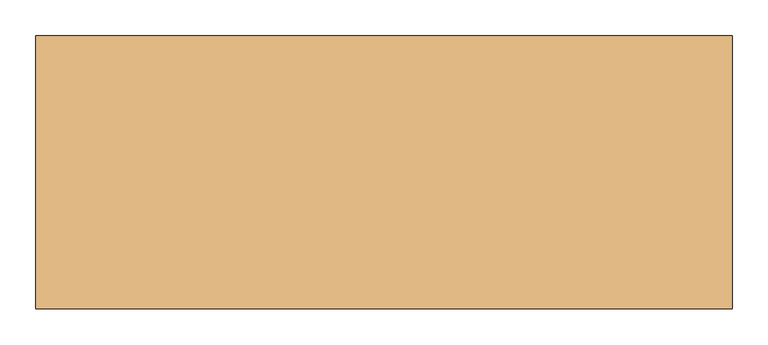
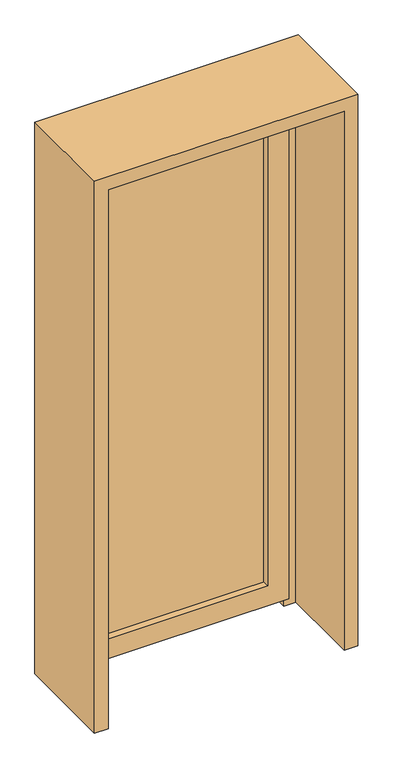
"""IFC4 building model written with IfcOpenShell, lengths in millimetres: door geometry, Внутренняя дверь 1-Навесная - 30970-2002 : ДПВ Г Б Пр 2100-870 ГОСТ 30970-2002."""

import ifcopenshell
import ifcopenshell.guid

model = None  # the IFC model being written
_history = None  # IfcOwnerHistory: only IFC2X3 demands one
_inside = {}  # id of a spatial element -> (the spatial element, [elements in it])
_under = {}  # id of a project, library or spatial element -> (it, [spatial elements below it])
_declared = {}  # id of a project -> (the project, [libraries it declares])
_typed = {}  # id of a type object -> (the type object, [elements of that type])
_made_of = {}  # id of a material, layer set ... -> (it, [elements and type objects made of it])


def new_model(schema):
    """Start an empty IFC model of exactly this schema.

    Asked for "IFC4X3", IfcOpenShell would pick the latest addendum, in which some entities
    have other attributes; the version numbers below select the first issue.
    IFC2X3 requires an IfcOwnerHistory on every rooted entity: one is made here for all.
    """
    global model, _history
    if schema == "IFC4X3":
        model = ifcopenshell.file(schema_version=(4, 3, 0, 0))
    else:
        model = ifcopenshell.file(schema=schema)
    _inside.clear()
    _under.clear()
    _declared.clear()
    _typed.clear()
    _made_of.clear()
    _history = None
    if model.schema == "IFC2X3":
        org = make("IfcOrganization", Name="unknown")
        user = make(
            "IfcPersonAndOrganization",
            ThePerson=make("IfcPerson", FamilyName="unknown"),
            TheOrganization=org,
        )
        app = make(
            "IfcApplication",
            ApplicationDeveloper=org,
            Version="unknown",
            ApplicationFullName="unknown",
            ApplicationIdentifier="unknown",
        )
        _history = make(
            "IfcOwnerHistory",
            OwningUser=user,
            OwningApplication=app,
            ChangeAction="ADDED",
            CreationDate=0,
        )
    return model


def make(cls, **values):
    """One entity of the class cls with the attributes given. An attribute that is None is left unset."""
    return model.create_entity(
        cls, **{name: value for name, value in values.items() if value is not None}
    )


def rooted(cls, **values):
    """An entity with a GlobalId (a new one), such as an element, a storey or a relation."""
    return make(cls, GlobalId=ifcopenshell.guid.new(), OwnerHistory=_history, **values)


def si_unit(unit_type, name, prefix=None):
    """IfcSIUnit, for example si_unit("LENGTHUNIT", "METRE", prefix="MILLI")."""
    return make("IfcSIUnit", UnitType=unit_type, Prefix=prefix, Name=name)


def assignment(units):
    """IfcUnitAssignment: the units of a project."""
    return None if units is None else make("IfcUnitAssignment", Units=units)


def point(xyz):
    """IfcCartesianPoint."""
    return None if xyz is None else make("IfcCartesianPoint", Coordinates=xyz)


def direction(xyz):
    """IfcDirection."""
    return None if xyz is None else make("IfcDirection", DirectionRatios=xyz)


def frame(location, z_axis=None, x_axis=None):
    """IfcAxis2Placement3D, a coordinate frame: its origin and axes. An axis left out is left unset."""
    return make(
        "IfcAxis2Placement3D",
        Location=point(location),
        Axis=direction(z_axis),
        RefDirection=direction(x_axis),
    )


def origin():
    """The frame at (0, 0, 0) with its axes left unset."""
    return frame((0.0, 0.0, 0.0))


def place(relative_to, where):
    """IfcLocalPlacement: puts the frame where relative to a parent placement (None: the world)."""
    return make(
        "IfcLocalPlacement", PlacementRelTo=relative_to, RelativePlacement=where
    )


def context(
    kind, dimensions, precision=None, world=None, true_north=None, identifier=None
):
    """IfcGeometricRepresentationContext, for example the 3D "Model" context."""
    return make(
        "IfcGeometricRepresentationContext",
        ContextIdentifier=identifier,
        ContextType=kind,
        CoordinateSpaceDimension=dimensions,
        Precision=precision,
        WorldCoordinateSystem=world,
        TrueNorth=true_north,
    )


def project(units=None, contexts=None):
    """IfcProject with its units and contexts."""
    return rooted(
        "IfcProject",
        Name="project",
        RepresentationContexts=contexts,
        UnitsInContext=assignment(units),
    )


def spatial(cls, under=None, at=None, **own):
    """A site, building, storey or space (cls), placed at a placement, below another one or the project."""
    s = rooted(cls, ObjectPlacement=at, **own)
    if under is not None:
        _under.setdefault(under.id(), (under, []))[1].append(s)
    return s


def polyline(points):
    """IfcPolyline through the points."""
    return make("IfcPolyline", Points=[point(p) for p in points])


def outline(outer, holes=None, kind="AREA"):
    """IfcArbitraryClosedProfileDef: a profile drawn as a closed curve; with holes, ...WithVoids."""
    if holes is None:
        return make("IfcArbitraryClosedProfileDef", ProfileType=kind, OuterCurve=outer)
    return make(
        "IfcArbitraryProfileDefWithVoids",
        ProfileType=kind,
        OuterCurve=outer,
        InnerCurves=holes,
    )


def extrude(swept, where, along, depth):
    """IfcExtrudedAreaSolid: the profile swept, set in the frame where, extruded along a direction by depth."""
    return make(
        "IfcExtrudedAreaSolid",
        SweptArea=swept,
        Position=where,
        ExtrudedDirection=direction(along),
        Depth=depth,
    )


def faces_of(points, faces, orient=None, outer=None):
    """IfcFace entities. A face is a list of loops; a loop is a list of indices into points, from 0.

    orient and outer hold one flag for each loop. By default every Orientation is true, the
    first loop of a face is its IfcFaceOuterBound and the others are IfcFaceBound.
    """
    made = []
    for i, loops in enumerate(faces):
        bounds = []
        for j, loop in enumerate(loops):
            is_outer = j == 0 if outer is None else outer[i][j]
            bounds.append(
                make(
                    "IfcFaceOuterBound" if is_outer else "IfcFaceBound",
                    Bound=make("IfcPolyLoop", Polygon=[points[k] for k in loop]),
                    Orientation=True if orient is None else orient[i][j],
                )
            )
        made.append(make("IfcFace", Bounds=bounds))
    return made


def faceted_brep(points, faces, orient=None, outer=None, voids=None):
    """IfcFacetedBrep: a solid bounded by flat faces; with voids (closed shells), ...WithVoids."""
    shared = [point(p) for p in points]
    hull = make("IfcClosedShell", CfsFaces=faces_of(shared, faces, orient, outer))
    if voids is None:
        return make("IfcFacetedBrep", Outer=hull)
    return make(
        "IfcFacetedBrepWithVoids",
        Outer=hull,
        Voids=[
            make(cls, CfsFaces=faces_of(shared, fs, o, b)) for cls, fs, o, b in voids
        ],
    )


def shape(context_of_items, identifier, shape_type, items):
    """IfcShapeRepresentation: the items that make up one representation, for example the "Body"."""
    return make(
        "IfcShapeRepresentation",
        ContextOfItems=context_of_items,
        RepresentationIdentifier=identifier,
        RepresentationType=shape_type,
        Items=items,
    )


def source(mapping_origin, context_of_items, identifier, shape_type, items):
    """IfcRepresentationMap: a shape defined once, which mapped items show again and again."""
    return make(
        "IfcRepresentationMap",
        MappingOrigin=mapping_origin,
        MappedRepresentation=shape(context_of_items, identifier, shape_type, items),
    )


def transform(
    local_origin,
    x_axis=None,
    y_axis=None,
    z_axis=None,
    scale=None,
    scale2=None,
    scale3=None,
    uniform=True,
):
    """IfcCartesianTransformationOperator3D, or its non-uniform kind. x_axis, y_axis, z_axis: its Axis1, 2, 3."""
    if uniform:
        return make(
            "IfcCartesianTransformationOperator3D",
            Axis1=direction(x_axis),
            Axis2=direction(y_axis),
            LocalOrigin=point(local_origin),
            Scale=scale,
            Axis3=direction(z_axis),
        )
    return make(
        "IfcCartesianTransformationOperator3DnonUniform",
        Axis1=direction(x_axis),
        Axis2=direction(y_axis),
        LocalOrigin=point(local_origin),
        Scale=scale,
        Axis3=direction(z_axis),
        Scale2=scale2,
        Scale3=scale3,
    )


def mapped(mapping_source, mapping_target):
    """IfcMappedItem: shows the shape of a source again, moved by a transform."""
    return make(
        "IfcMappedItem", MappingSource=mapping_source, MappingTarget=mapping_target
    )


def made_of(thing, what):
    """Note that an element or type object is made of a material, layer set ...; save() writes the relation."""
    if what is not None:
        _made_of.setdefault(what.id(), (what, []))[1].append(thing)
    return thing


def element(
    cls,
    number,
    at=None,
    inside=None,
    cuts=None,
    type_object=None,
    material=None,
    context=None,
    identifier="Body",
    shape_type=None,
    held_by="IfcProductDefinitionShape",
    body=None,
    shapes=None,
    **own,
):
    """One element of the class cls, such as IfcWall. Its Tag is "e" and its number.

    at: its placement. inside: the storey or other place that contains it. cuts: it is an
    opening in that element (IfcRelVoidsElement). A single representation is given by context,
    identifier, shape_type and body (its items); several are given by shapes. held_by: the class
    of the entity that holds the representations. save() writes the other relations.
    """
    e = rooted(cls, Tag="e%d" % number, ObjectPlacement=at, **own)
    if body is not None:
        shapes = [shape(context, identifier, shape_type, body)]
    if shapes is not None:
        e.Representation = make(held_by, Representations=shapes)
    if inside is not None:
        _inside.setdefault(inside.id(), (inside, []))[1].append(e)
    if cuts is not None:
        rooted(
            "IfcRelVoidsElement", RelatingBuildingElement=cuts, RelatedOpeningElement=e
        )
    if type_object is not None:
        _typed.setdefault(type_object.id(), (type_object, []))[1].append(e)
    return made_of(e, material)


def aggregate(whole, parts):
    """IfcRelAggregates: a whole, such as a stair, and the parts it consists of."""
    return rooted("IfcRelAggregates", RelatingObject=whole, RelatedObjects=parts)


def save(model, path):
    """Write the relations noted so far, then the file.

    IfcRelAggregates (storeys below a building ...), IfcRelContainedInSpatialStructure (elements
    in a storey), IfcRelDefinesByType, IfcRelAssociatesMaterial and IfcRelDeclares: one each for
    every whole, place, type object, material and project.
    """
    for whole, parts in _under.values():
        aggregate(whole, parts)
    for where, things in _inside.values():
        rooted(
            "IfcRelContainedInSpatialStructure",
            RelatedElements=things,
            RelatingStructure=where,
        )
    for kind, things in _typed.values():
        rooted("IfcRelDefinesByType", RelatedObjects=things, RelatingType=kind)
    for what, things in _made_of.values():
        rooted("IfcRelAssociatesMaterial", RelatedObjects=things, RelatingMaterial=what)
    for by, libraries in _declared.values():
        rooted("IfcRelDeclares", RelatingContext=by, RelatedDefinitions=libraries)
    model.write(path)


def door_987aae31(model_context):
    return source(origin(), model_context, "Body", "SolidModel", [
        extrude(outline(polyline([(-338.0, 163.0), (338.0, 163.0), (338.0, 139.0), (-338.0, 139.0), (-338.0, 163.0)])), frame((0.0, 0.0, 97.0), z_axis=(0.0, 0.0, 1.0), x_axis=(1.0, 0.0, 0.0)), (0.0, 0.0, 1.0), 1906.0),
        faceted_brep([(-323.0, 139.0, 1988.0), (-323.0, 113.0, 1988.0), (-323.0, 113.0, 112.0), (-323.0, 139.0, 112.0), (-338.0, 163.0, 2003.0), (-338.0, 139.0, 2003.0), (-338.0, 139.0, 97.0), (-338.0, 163.0, 97.0), (-323.0, 183.0, 1988.0), (-323.0, 163.0, 1988.0), (-323.0, 163.0, 112.0), (-323.0, 183.0, 112.0), (-380.0, 127.0, 2045.0), (-380.0, 183.0, 2045.0), (-380.0, 183.0, 55.0), (-380.0, 127.0, 55.0), (-400.0, 113.0, 2065.0), (-400.0, 127.0, 2065.0), (-400.0, 127.0, 35.0), (-400.0, 113.0, 35.0), (323.0, 113.0, 112.0), (323.0, 139.0, 112.0), (338.0, 139.0, 97.0), (338.0, 163.0, 97.0), (323.0, 163.0, 112.0), (323.0, 183.0, 112.0), (380.0, 183.0, 55.0), (380.0, 127.0, 55.0), (400.0, 127.0, 35.0), (400.0, 113.0, 35.0), (323.0, 113.0, 1988.0), (323.0, 139.0, 1988.0), (338.0, 139.0, 2003.0), (338.0, 163.0, 2003.0), (323.0, 163.0, 1988.0), (323.0, 183.0, 1988.0), (380.0, 183.0, 2045.0), (380.0, 127.0, 2045.0), (400.0, 127.0, 2065.0), (400.0, 113.0, 2065.0)], [[[0, 1, 2, 3]], [[4, 5, 6, 7]], [[8, 9, 10, 11]], [[12, 13, 14, 15]], [[16, 17, 18, 19]], [[3, 2, 20, 21]], [[7, 6, 22, 23]], [[11, 10, 24, 25]], [[15, 14, 26, 27]], [[19, 18, 28, 29]], [[21, 20, 30, 31]], [[23, 22, 32, 33]], [[25, 24, 34, 35]], [[27, 26, 36, 37]], [[29, 28, 38, 39]], [[31, 30, 1, 0]], [[5, 32, 22, 6], [3, 21, 31, 0]], [[33, 32, 5, 4]], [[7, 23, 33, 4], [9, 34, 24, 10]], [[35, 34, 9, 8]], [[13, 36, 26, 14], [11, 25, 35, 8]], [[37, 36, 13, 12]], [[17, 38, 28, 18], [15, 27, 37, 12]], [[39, 38, 17, 16]], [[19, 29, 39, 16], [1, 30, 20, 2]]]),
        faceted_brep([(372.0, 199.0, 0.0), (435.0, 199.0, 0.0), (435.0, 129.0, 0.0), (392.0, 129.0, 0.0), (392.0, 185.0, 0.0), (372.0, 185.0, 0.0), (372.0, 199.0, 2037.0), (-372.0, 199.0, 2037.0), (-372.0, 199.0, 0.0), (-435.0, 199.0, 0.0), (-435.0, 199.0, 2100.0), (435.0, 199.0, 2100.0), (435.0, 129.0, 2100.0), (-435.0, 129.0, 2100.0), (-435.0, 129.0, 0.0), (-392.0, 129.0, 0.0), (-392.0, 129.0, 2057.0), (392.0, 129.0, 2057.0), (392.0, 185.0, 2057.0), (-392.0, 185.0, 2057.0), (-392.0, 185.0, 0.0), (-372.0, 185.0, 0.0), (-372.0, 185.0, 2037.0), (372.0, 185.0, 2037.0)], [[[0, 1, 2, 3, 4, 5]], [[1, 0, 6, 7, 8, 9, 10, 11]], [[2, 1, 11, 12]], [[3, 2, 12, 13, 14, 15, 16, 17]], [[4, 3, 17, 18]], [[5, 4, 18, 19, 20, 21, 22, 23]], [[0, 5, 23, 6]], [[7, 22, 21, 8]], [[8, 21, 20, 15, 14, 9]], [[13, 10, 9, 14]], [[19, 16, 15, 20]], [[12, 11, 10, 13]], [[18, 17, 16, 19]], [[6, 23, 22, 7]]]),
        extrude(outline(polyline([(0.0, 435.0), (0.0, 485.0), (2150.0, 485.0), (2150.0, -485.0), (0.0, -485.0), (0.0, -435.0), (2100.0, -435.0), (2100.0, 435.0), (0.0, 435.0)])), frame((0.0, -181.0, 0.0), z_axis=(0.0, 1.0, 0.0), x_axis=(0.0, 0.0, 1.0)), (0.0, 0.0, 1.0), 380.0),
    ])


if __name__ == "__main__":
    model = new_model("IFC4")
    model_context = context("Model", 3, world=origin())
    ifc_project = project(units=[si_unit("LENGTHUNIT", "METRE", prefix="MILLI")], contexts=[model_context])
    site = spatial("IfcSite", under=ifc_project)
    building = spatial("IfcBuilding", under=site)
    placement = place(None, origin())
    door_shape = door_987aae31(model_context)
    element("IfcDoor", 1, ObjectType="Внутренняя дверь 1-Навесная - 30970-2002 : ДПВ Г Б Пр 2100-870 ГОСТ 30970-2002", at=placement, inside=building, context=model_context, shape_type="MappedRepresentation", body=[
        mapped(door_shape, transform((0.0, 0.0, 0.0), x_axis=(1.0, 0.0, 0.0), y_axis=(0.0, 1.0, 0.0), z_axis=(0.0, 0.0, 1.0))),
    ])
    save(model, "model.ifc")
